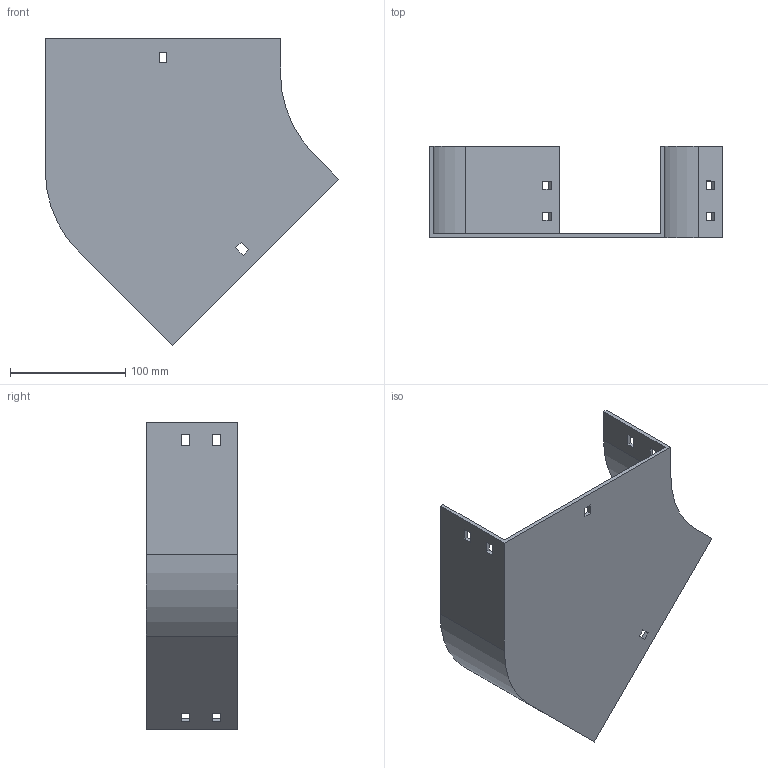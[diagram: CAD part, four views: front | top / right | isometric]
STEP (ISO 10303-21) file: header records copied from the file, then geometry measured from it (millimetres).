
FILE_DESCRIPTION (( 'STEP AP214' ), '1' );
FILE_NAME ('11F1C200.step', '2025-02-21T12:56:04', ( '' ), ( '' ), 'SwSTEP 2.0', 'SolidWorks 2023', '' );
FILE_SCHEMA (( 'AUTOMOTIVE_DESIGN' ));
Length unit declared in the file: millimetre
Products named in the file (1): 11F1C200
Bounding box: 254.5 x 79 x 266.17 mm (x, y, z)
Volume: 277829.2 mm3; surface area: 163974.8 mm2
Topology: 1 solids, 1 shells, 58 faces, 168 edges, 112 vertices
Faces by surface type: plane 54, cylinder 4
Entity records: 1943 total; most frequent: CARTESIAN_POINT 339, ORIENTED_EDGE 336, DIRECTION 294, EDGE_CURVE 168, VECTOR 160, LINE 160, VERTEX_POINT 112, EDGE_LOOP 78
